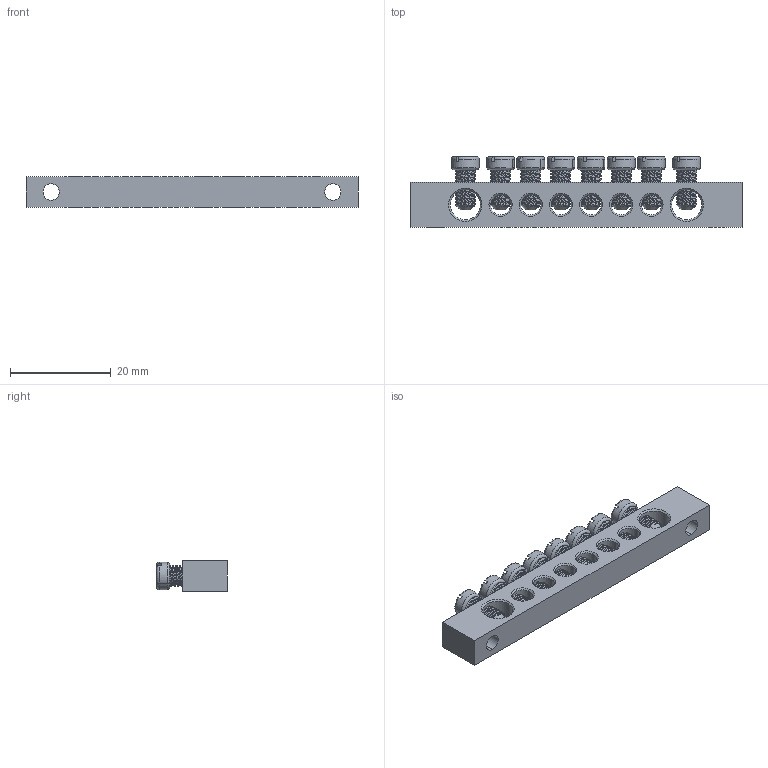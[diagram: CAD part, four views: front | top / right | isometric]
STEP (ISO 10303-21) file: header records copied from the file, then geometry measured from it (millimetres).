
FILE_DESCRIPTION (( 'STEP AP214' ), '1' );
FILE_NAME ('277987 OptiKit BB-PEN-S-8-6õ9-2.STEP', '2020-02-07T06:34:30', ( '' ), ( '' ), 'SwSTEP 2.0', 'SolidWorks 2018', '' );
FILE_SCHEMA (( 'AUTOMOTIVE_DESIGN' ));
Length unit declared in the file: millimetre
Products named in the file (3): Âèíò ì4; Øèíà 6õ9 8 2; 277987 OptiKit BB-PEN-S-8-6õ9-2
Assembly tree (9 placements, depth 2):
  277987 OptiKit BB-PEN-S-8-6õ9-2
    Øèíà 6õ9 8 2
    Âèíò ì4  x8
Bounding box: 66 x 14.1 x 6 mm (x, y, z)
Volume: 3547.8 mm3; surface area: 4498.9 mm2
Topology: 9 solids, 9 shells, 634 faces, 1760 edges, 1136 vertices
Faces by surface type: plane 222, cylinder 220, cone 104, torus 56, bspline 32
Entity records: 7163 total; most frequent: CARTESIAN_POINT 3320, ORIENTED_EDGE 758, DIRECTION 706, EDGE_CURVE 379, AXIS2_PLACEMENT_3D 277, VERTEX_POINT 240, EDGE_LOOP 181, LINE 152
